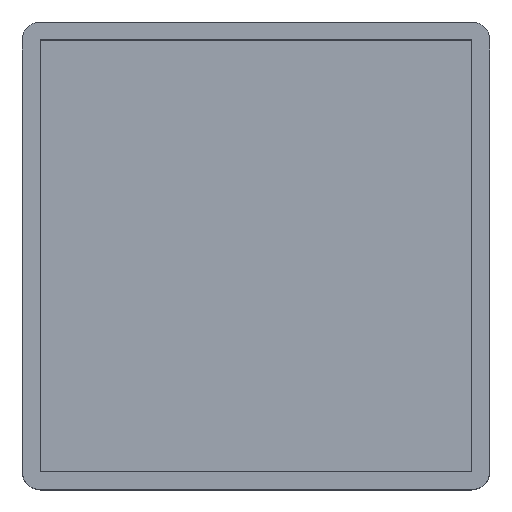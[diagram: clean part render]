
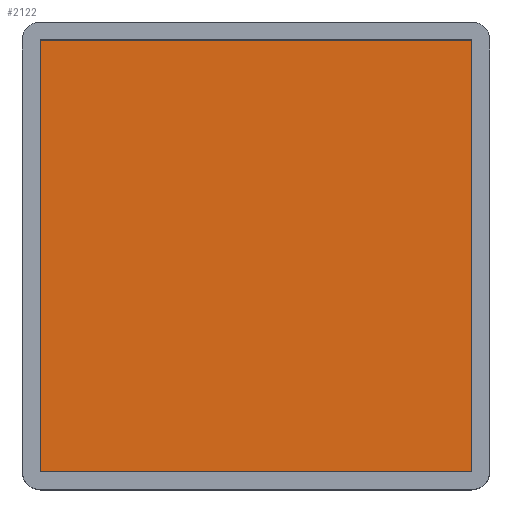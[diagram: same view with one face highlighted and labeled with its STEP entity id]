
A CAD part, top view. The second image highlights one B-rep face of the part: STEP entity #2122.
In plain terms, the highlighted planar face has unit normal (0, 0, 1).
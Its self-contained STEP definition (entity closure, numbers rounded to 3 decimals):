
#1828 = PLANE('',#1829);
#1829 = AXIS2_PLACEMENT_3D('',#1830,#1831,#1832);
#1830 = CARTESIAN_POINT('',(-6.,-6.,6.));
#1831 = DIRECTION('',(1.,0.,0.));
#1832 = DIRECTION('',(0.,1.,0.));
#1856 = PLANE('',#1857);
#1857 = AXIS2_PLACEMENT_3D('',#1858,#1859,#1860);
#1858 = CARTESIAN_POINT('',(-6.,6.,6.));
#1859 = DIRECTION('',(0.,-1.,0.));
#1860 = DIRECTION('',(1.,0.,0.));
#1884 = PLANE('',#1885);
#1885 = AXIS2_PLACEMENT_3D('',#1886,#1887,#1888);
#1886 = CARTESIAN_POINT('',(6.,6.,6.));
#1887 = DIRECTION('',(-1.,0.,0.));
#1888 = DIRECTION('',(0.,-1.,0.));
#1910 = PLANE('',#1911);
#1911 = AXIS2_PLACEMENT_3D('',#1912,#1913,#1914);
#1912 = CARTESIAN_POINT('',(6.,-6.,6.));
#1913 = DIRECTION('',(0.,1.,0.));
#1914 = DIRECTION('',(-1.,0.,0.));
#1926 = VERTEX_POINT('',#1927);
#1927 = CARTESIAN_POINT('',(-6.,-6.,5.6));
#1948 = EDGE_CURVE('',#1926,#1949,#1951,.T.);
#1949 = VERTEX_POINT('',#1950);
#1950 = CARTESIAN_POINT('',(-6.,6.,5.6));
#1951 = SURFACE_CURVE('',#1952,(#1956,#1963),.PCURVE_S1.);
#1952 = LINE('',#1953,#1954);
#1953 = CARTESIAN_POINT('',(-6.,-6.,5.6));
#1954 = VECTOR('',#1955,1.);
#1955 = DIRECTION('',(0.,1.,0.));
#1956 = PCURVE('',#1828,#1957);
#1957 = DEFINITIONAL_REPRESENTATION('',(#1958),#1962);
#1958 = LINE('',#1959,#1960);
#1959 = CARTESIAN_POINT('',(0.,-0.4));
#1960 = VECTOR('',#1961,1.);
#1961 = DIRECTION('',(1.,0.));
#1962 = ( GEOMETRIC_REPRESENTATION_CONTEXT(2) 
PARAMETRIC_REPRESENTATION_CONTEXT() REPRESENTATION_CONTEXT('2D SPACE',''
  ) );
#1963 = PCURVE('',#1964,#1969);
#1964 = PLANE('',#1965);
#1965 = AXIS2_PLACEMENT_3D('',#1966,#1967,#1968);
#1966 = CARTESIAN_POINT('',(0.,0.,5.6));
#1967 = DIRECTION('',(0.,0.,1.));
#1968 = DIRECTION('',(1.,0.,0.));
#1969 = DEFINITIONAL_REPRESENTATION('',(#1970),#1974);
#1970 = LINE('',#1971,#1972);
#1971 = CARTESIAN_POINT('',(-6.,-6.));
#1972 = VECTOR('',#1973,1.);
#1973 = DIRECTION('',(0.,1.));
#1974 = ( GEOMETRIC_REPRESENTATION_CONTEXT(2) 
PARAMETRIC_REPRESENTATION_CONTEXT() REPRESENTATION_CONTEXT('2D SPACE',''
  ) );
#2002 = VERTEX_POINT('',#2003);
#2003 = CARTESIAN_POINT('',(6.,-6.,5.6));
#2024 = EDGE_CURVE('',#2002,#1926,#2025,.T.);
#2025 = SURFACE_CURVE('',#2026,(#2030,#2037),.PCURVE_S1.);
#2026 = LINE('',#2027,#2028);
#2027 = CARTESIAN_POINT('',(6.,-6.,5.6));
#2028 = VECTOR('',#2029,1.);
#2029 = DIRECTION('',(-1.,0.,0.));
#2030 = PCURVE('',#1910,#2031);
#2031 = DEFINITIONAL_REPRESENTATION('',(#2032),#2036);
#2032 = LINE('',#2033,#2034);
#2033 = CARTESIAN_POINT('',(0.,-0.4));
#2034 = VECTOR('',#2035,1.);
#2035 = DIRECTION('',(1.,0.));
#2036 = ( GEOMETRIC_REPRESENTATION_CONTEXT(2) 
PARAMETRIC_REPRESENTATION_CONTEXT() REPRESENTATION_CONTEXT('2D SPACE',''
  ) );
#2037 = PCURVE('',#1964,#2038);
#2038 = DEFINITIONAL_REPRESENTATION('',(#2039),#2043);
#2039 = LINE('',#2040,#2041);
#2040 = CARTESIAN_POINT('',(6.,-6.));
#2041 = VECTOR('',#2042,1.);
#2042 = DIRECTION('',(-1.,0.));
#2043 = ( GEOMETRIC_REPRESENTATION_CONTEXT(2) 
PARAMETRIC_REPRESENTATION_CONTEXT() REPRESENTATION_CONTEXT('2D SPACE',''
  ) );
#2051 = VERTEX_POINT('',#2052);
#2052 = CARTESIAN_POINT('',(6.,6.,5.6));
#2073 = EDGE_CURVE('',#2051,#2002,#2074,.T.);
#2074 = SURFACE_CURVE('',#2075,(#2079,#2086),.PCURVE_S1.);
#2075 = LINE('',#2076,#2077);
#2076 = CARTESIAN_POINT('',(6.,6.,5.6));
#2077 = VECTOR('',#2078,1.);
#2078 = DIRECTION('',(0.,-1.,0.));
#2079 = PCURVE('',#1884,#2080);
#2080 = DEFINITIONAL_REPRESENTATION('',(#2081),#2085);
#2081 = LINE('',#2082,#2083);
#2082 = CARTESIAN_POINT('',(0.,-0.4));
#2083 = VECTOR('',#2084,1.);
#2084 = DIRECTION('',(1.,0.));
#2085 = ( GEOMETRIC_REPRESENTATION_CONTEXT(2) 
PARAMETRIC_REPRESENTATION_CONTEXT() REPRESENTATION_CONTEXT('2D SPACE',''
  ) );
#2086 = PCURVE('',#1964,#2087);
#2087 = DEFINITIONAL_REPRESENTATION('',(#2088),#2092);
#2088 = LINE('',#2089,#2090);
#2089 = CARTESIAN_POINT('',(6.,6.));
#2090 = VECTOR('',#2091,1.);
#2091 = DIRECTION('',(0.,-1.));
#2092 = ( GEOMETRIC_REPRESENTATION_CONTEXT(2) 
PARAMETRIC_REPRESENTATION_CONTEXT() REPRESENTATION_CONTEXT('2D SPACE',''
  ) );
#2100 = EDGE_CURVE('',#1949,#2051,#2101,.T.);
#2101 = SURFACE_CURVE('',#2102,(#2106,#2113),.PCURVE_S1.);
#2102 = LINE('',#2103,#2104);
#2103 = CARTESIAN_POINT('',(-6.,6.,5.6));
#2104 = VECTOR('',#2105,1.);
#2105 = DIRECTION('',(1.,0.,0.));
#2106 = PCURVE('',#1856,#2107);
#2107 = DEFINITIONAL_REPRESENTATION('',(#2108),#2112);
#2108 = LINE('',#2109,#2110);
#2109 = CARTESIAN_POINT('',(0.,-0.4));
#2110 = VECTOR('',#2111,1.);
#2111 = DIRECTION('',(1.,0.));
#2112 = ( GEOMETRIC_REPRESENTATION_CONTEXT(2) 
PARAMETRIC_REPRESENTATION_CONTEXT() REPRESENTATION_CONTEXT('2D SPACE',''
  ) );
#2113 = PCURVE('',#1964,#2114);
#2114 = DEFINITIONAL_REPRESENTATION('',(#2115),#2119);
#2115 = LINE('',#2116,#2117);
#2116 = CARTESIAN_POINT('',(-6.,6.));
#2117 = VECTOR('',#2118,1.);
#2118 = DIRECTION('',(1.,0.));
#2119 = ( GEOMETRIC_REPRESENTATION_CONTEXT(2) 
PARAMETRIC_REPRESENTATION_CONTEXT() REPRESENTATION_CONTEXT('2D SPACE',''
  ) );
#2122 = ADVANCED_FACE('',(#2123),#1964,.T.);
#2123 = FACE_BOUND('',#2124,.F.);
#2124 = EDGE_LOOP('',(#2125,#2126,#2127,#2128));
#2125 = ORIENTED_EDGE('',*,*,#2100,.T.);
#2126 = ORIENTED_EDGE('',*,*,#2073,.T.);
#2127 = ORIENTED_EDGE('',*,*,#2024,.T.);
#2128 = ORIENTED_EDGE('',*,*,#1948,.T.);
